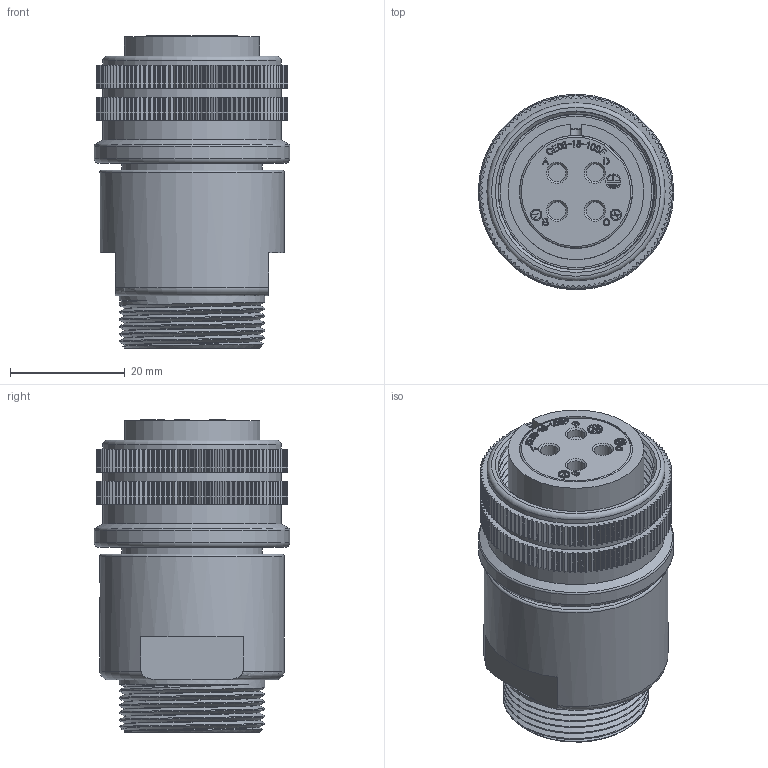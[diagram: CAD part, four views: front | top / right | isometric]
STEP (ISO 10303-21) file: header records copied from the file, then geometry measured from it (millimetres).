
FILE_DESCRIPTION (( 'STEP AP203' ), '1' );
FILE_NAME ('CE05-6A18-10SD-D-BSS.STEP', '2021-05-25T02:49:21', ( '' ), ( '' ), 'SwSTEP 2.0', 'SolidWorks 2018', '' );
FILE_SCHEMA (( 'CONFIG_CONTROL_DESIGN' ));
Length unit declared in the file: millimetre
Products named in the file (1): CE05-6A18-10SD-D-BSS
Bounding box: 34.08 x 34.08 x 54.42 mm (x, y, z)
Volume: 28726.2 mm3; surface area: 18259.4 mm2
Topology: 1 solids, 1 shells, 2203 faces, 6371 edges, 4264 vertices
Faces by surface type: cylinder 982, plane 833, bspline 358, cone 16, torus 14
Full cylindrical faces by diameter (mm): 1.6 x2, 2 x2, 2.6 x2, 2.7 x4, 3.1 x4, 3.3 x4, 3.4 x3, 4.04 x1, 4.7 x3, 16.22 x1, 19.72 x1, 20.45 x1, 22.4 x1, 24.53 x1, 25.31 x5, 25.43 x1, 26.4 x1, 27.02 x1, 27.83 x1, 31.04 x3, 32.1 x1, 34.08 x1
Entity records: 86138 total; most frequent: CARTESIAN_POINT 29423, ORIENTED_EDGE 12524, DIRECTION 11076, EDGE_CURVE 6262, VERTEX_POINT 4225, AXIS2_PLACEMENT_3D 3811, VECTOR 3454, LINE 3454
